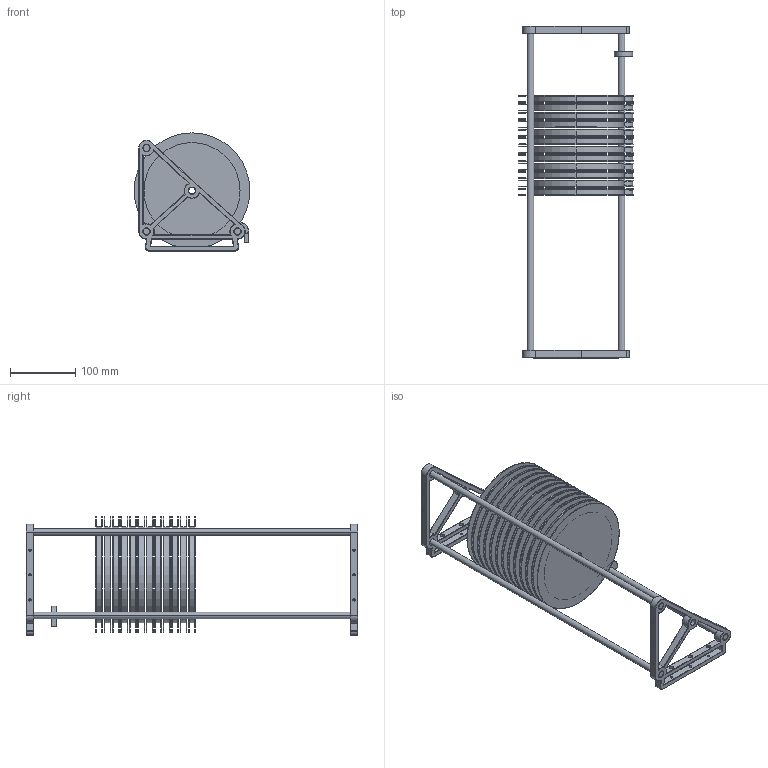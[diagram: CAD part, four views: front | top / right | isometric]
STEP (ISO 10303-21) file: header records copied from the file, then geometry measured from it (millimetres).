
FILE_DESCRIPTION (( 'STEP AP214' ), '1' );
FILE_NAME ('reelholder-assembly.STEP', '2017-11-10T15:35:33', ( '' ), ( '' ), 'SwSTEP 2.0', 'SolidWorks 2017', '' );
FILE_SCHEMA (( 'AUTOMOTIVE_DESIGN' ));
Length unit declared in the file: millimetre
Products named in the file (7): reelholder-lead-roll-changeable-long; reelholder-lead-roll-changeable-short; reelholder-mount-mirrored; reelholder-mount; reelholder-shaft; reel_7inch; reelholder-assembly
Assembly tree (30 placements, depth 2):
  reelholder-assembly
    reel_7inch  x12
    reelholder-shaft  x3
    reelholder-mount
    reelholder-mount-mirrored
    reelholder-lead-roll-changeable-short  x12
    reelholder-lead-roll-changeable-long
Bounding box: 177.8 x 510 x 181.8 mm (x, y, z)
Volume: 2623879.4 mm3; surface area: 969258.4 mm2
Topology: 30 solids, 30 shells, 893 faces, 2050 edges, 1253 vertices
Faces by surface type: plane 417, cylinder 271, cone 205
Entity records: 11738 total; most frequent: CARTESIAN_POINT 2119, DIRECTION 2046, ORIENTED_EDGE 1832, EDGE_CURVE 916, AXIS2_PLACEMENT_3D 783, VERTEX_POINT 552, VECTOR 480, LINE 480
